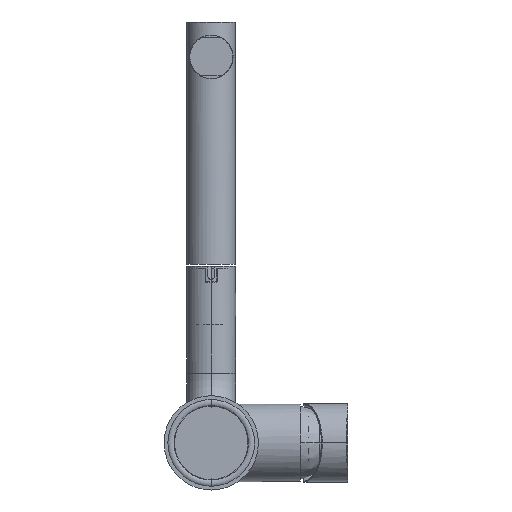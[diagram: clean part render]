
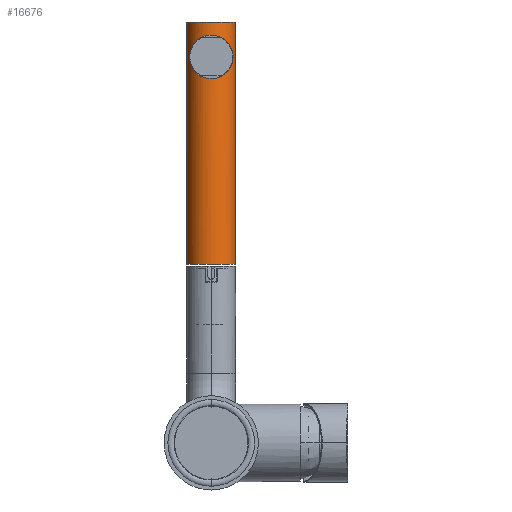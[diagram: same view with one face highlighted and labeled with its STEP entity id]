
A CAD part, front view. The second image highlights one B-rep face of the part: STEP entity #16676.
In plain terms, the highlighted cylindrical face has radius 14 mm (diameter 28 mm), a partial arc.
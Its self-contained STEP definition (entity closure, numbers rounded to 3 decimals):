
#16376=CARTESIAN_POINT('',(0.,297.4,
208.95));
#16377=CARTESIAN_POINT('',(-0.334,297.4,
208.95));
#16378=CARTESIAN_POINT('',(-1.006,297.424,
208.977));
#16379=CARTESIAN_POINT('',(-2.026,297.535,
209.101));
#16380=CARTESIAN_POINT('',(-3.04,297.721,
209.31));
#16381=CARTESIAN_POINT('',(-4.052,297.985,
209.609));
#16382=CARTESIAN_POINT('',(-5.063,298.333,
210.004));
#16383=CARTESIAN_POINT('',(-6.064,298.765,
210.5));
#16384=CARTESIAN_POINT('',(-7.059,299.292,
211.111));
#16385=CARTESIAN_POINT('',(-8.024,299.908,
211.839));
#16386=CARTESIAN_POINT('',(-8.95,300.613,
212.692));
#16387=CARTESIAN_POINT('',(-9.822,301.401,
213.679));
#16388=CARTESIAN_POINT('',(-10.598,302.232,
214.779));
#16389=CARTESIAN_POINT('',(-11.195,302.978,
215.848));
#16390=CARTESIAN_POINT('',(-11.647,303.621,
216.87));
#16391=CARTESIAN_POINT('',(-11.978,304.146,
217.832));
#16392=CARTESIAN_POINT('',(-12.211,304.548,
218.728));
#16393=CARTESIAN_POINT('',(-12.368,304.839,
219.577));
#16394=CARTESIAN_POINT('',(-12.462,305.019,
220.373));
#16395=CARTESIAN_POINT('',(-12.502,305.099,
221.113));
#16396=CARTESIAN_POINT('',(-12.502,305.099,
221.789));
#16397=CARTESIAN_POINT('',(-12.462,305.019,
222.527));
#16398=CARTESIAN_POINT('',(-12.368,304.839,
223.321));
#16399=CARTESIAN_POINT('',(-12.211,304.549,
224.17));
#16400=CARTESIAN_POINT('',(-11.978,304.146,
225.067));
#16401=CARTESIAN_POINT('',(-11.647,303.622,
226.029));
#16402=CARTESIAN_POINT('',(-11.195,302.978,
227.051));
#16403=CARTESIAN_POINT('',(-10.598,302.232,
228.121));
#16404=CARTESIAN_POINT('',(-9.822,301.4,
229.221));
#16405=CARTESIAN_POINT('',(-8.95,300.613,
230.208));
#16406=CARTESIAN_POINT('',(-8.024,299.908,
231.061));
#16407=CARTESIAN_POINT('',(-7.058,299.292,
231.789));
#16408=CARTESIAN_POINT('',(-6.064,298.765,
232.4));
#16409=CARTESIAN_POINT('',(-5.063,298.333,
232.896));
#16410=CARTESIAN_POINT('',(-4.052,297.985,
233.291));
#16411=CARTESIAN_POINT('',(-3.04,297.721,
233.59));
#16412=CARTESIAN_POINT('',(-2.026,297.535,
233.799));
#16413=CARTESIAN_POINT('',(-1.006,297.424,
233.923));
#16414=CARTESIAN_POINT('',(-0.334,297.4,
233.95));
#16415=CARTESIAN_POINT('',(0.,297.4,
233.95));
#16444=CARTESIAN_POINT('',(0.,311.4,
241.45));
#16445=DIRECTION('',(0.,0.,1.));
#16446=DIRECTION('',(-1.,0.,0.));
#16447=AXIS2_PLACEMENT_3D('',#16444,#16445,#16446);
#16454=DIRECTION('',(0.,0.,1.));
#16455=VECTOR('',#16454,138.9);
#16456=CARTESIAN_POINT('',(-14.,311.4,102.55));
#16457=LINE('',#16456,#16455);
#16458=DIRECTION('',(0.,0.,1.));
#16459=VECTOR('',#16458,138.9);
#16460=CARTESIAN_POINT('',(14.,311.4,102.55));
#16461=LINE('',#16460,#16459);
#16467=CARTESIAN_POINT('',(0.,311.4,102.55));
#16468=DIRECTION('',(0.,0.,-1.));
#16469=DIRECTION('',(1.,0.,0.));
#16470=AXIS2_PLACEMENT_3D('',#16467,#16468,#16469);
#16472=CARTESIAN_POINT('',(0.,297.4,
233.95));
#16473=CARTESIAN_POINT('',(0.334,297.4,
233.95));
#16474=CARTESIAN_POINT('',(1.006,297.424,233.923));
#16475=CARTESIAN_POINT('',(2.025,297.534,233.799));
#16476=CARTESIAN_POINT('',(3.038,297.721,233.59));
#16477=CARTESIAN_POINT('',(4.05,297.985,233.292));
#16478=CARTESIAN_POINT('',(5.062,298.332,232.897));
#16479=CARTESIAN_POINT('',(6.062,298.764,232.401));
#16480=CARTESIAN_POINT('',(7.056,299.29,231.791));
#16481=CARTESIAN_POINT('',(8.022,299.907,231.063));
#16482=CARTESIAN_POINT('',(8.948,300.611,230.21));
#16483=CARTESIAN_POINT('',(9.819,301.398,229.224));
#16484=CARTESIAN_POINT('',(10.597,302.231,228.122));
#16485=CARTESIAN_POINT('',(11.195,302.978,227.052));
#16486=CARTESIAN_POINT('',(11.647,303.622,226.029));
#16487=CARTESIAN_POINT('',(11.978,304.146,225.067));
#16488=CARTESIAN_POINT('',(12.211,304.549,224.171));
#16489=CARTESIAN_POINT('',(12.368,304.839,223.323));
#16490=CARTESIAN_POINT('',(12.461,305.019,222.529));
#16491=CARTESIAN_POINT('',(12.502,305.099,221.791));
#16492=CARTESIAN_POINT('',(12.502,305.099,221.116));
#16493=CARTESIAN_POINT('',(12.462,305.02,220.376));
#16494=CARTESIAN_POINT('',(12.369,304.84,219.58));
#16495=CARTESIAN_POINT('',(12.212,304.549,218.731));
#16496=CARTESIAN_POINT('',(11.979,304.147,217.834));
#16497=CARTESIAN_POINT('',(11.648,303.622,216.872));
#16498=CARTESIAN_POINT('',(11.195,302.979,215.849));
#16499=CARTESIAN_POINT('',(10.597,302.231,214.778));
#16500=CARTESIAN_POINT('',(9.819,301.398,213.676));
#16501=CARTESIAN_POINT('',(8.947,300.611,212.69));
#16502=CARTESIAN_POINT('',(8.022,299.907,211.837));
#16503=CARTESIAN_POINT('',(7.056,299.29,211.109));
#16504=CARTESIAN_POINT('',(6.062,298.764,210.499));
#16505=CARTESIAN_POINT('',(5.061,298.332,210.003));
#16506=CARTESIAN_POINT('',(4.05,297.985,209.608));
#16507=CARTESIAN_POINT('',(3.038,297.721,209.31));
#16508=CARTESIAN_POINT('',(2.025,297.534,209.101));
#16509=CARTESIAN_POINT('',(1.006,297.424,208.977));
#16510=CARTESIAN_POINT('',(0.334,297.4,
208.95));
#16511=CARTESIAN_POINT('',(0.,297.4,
208.95));
#16594=CARTESIAN_POINT('',(14.,311.4,102.55));
#16595=CARTESIAN_POINT('',(14.,311.4,241.45));
#16596=VERTEX_POINT('',#16594);
#16597=VERTEX_POINT('',#16595);
#16598=CARTESIAN_POINT('',(-14.,311.4,102.55));
#16599=CARTESIAN_POINT('',(-14.,311.4,
241.45));
#16600=VERTEX_POINT('',#16598);
#16601=VERTEX_POINT('',#16599);
#16630=VERTEX_POINT('',#16472);
#16631=VERTEX_POINT('',#16511);
#16656=CARTESIAN_POINT('',(0.,311.4,102.55));
#16657=DIRECTION('',(0.,0.,1.));
#16658=DIRECTION('',(-1.,0.,0.));
#16659=AXIS2_PLACEMENT_3D('',#16656,#16657,#16658);
#16660=CYLINDRICAL_SURFACE('',#16659,14.);
#16662=ORIENTED_EDGE('',*,*,#16661,.T.);
#16664=ORIENTED_EDGE('',*,*,#16663,.F.);
#16666=ORIENTED_EDGE('',*,*,#16665,.T.);
#16668=ORIENTED_EDGE('',*,*,#16667,.T.);
#16669=EDGE_LOOP('',(#16662,#16664,#16666,#16668));
#16670=FACE_OUTER_BOUND('',#16669,.F.);
#16672=ORIENTED_EDGE('',*,*,#16671,.F.);
#16673=ORIENTED_EDGE('',*,*,#16637,.F.);
#16674=EDGE_LOOP('',(#16672,#16673));
#16675=FACE_BOUND('',#16674,.F.);
#16676=ADVANCED_FACE('',(#16670,#16675),#16660,.T.);
#16416=B_SPLINE_CURVE_WITH_KNOTS('',3,(#16376,#16377,#16378,#16379,#16380,
#16381,#16382,#16383,#16384,#16385,#16386,#16387,#16388,#16389,#16390,#16391,
#16392,#16393,#16394,#16395,#16396,#16397,#16398,#16399,#16400,#16401,#16402,
#16403,#16404,#16405,#16406,#16407,#16408,#16409,#16410,#16411,#16412,#16413,
#16414,#16415),.UNSPECIFIED.,.F.,.F.,(4,1,1,1,1,1,1,1,1,1,1,1,1,1,1,1,1,1,1,1,1,
1,1,1,1,1,1,1,1,1,1,1,1,1,1,1,1,4),(0.,0.027,0.054,
0.081,0.108,0.135,0.162,
0.189,0.216,0.243,0.27,
0.297,0.324,0.351,0.378,
0.405,0.432,0.459,0.486,
0.514,0.541,0.568,0.595,
0.622,0.649,0.676,0.703,
0.73,0.757,0.784,0.811,
0.838,0.865,0.892,0.919,
0.946,0.973,1.),.UNSPECIFIED.);
#16448=CIRCLE('',#16447,14.);
#16471=CIRCLE('',#16470,14.);
#16512=B_SPLINE_CURVE_WITH_KNOTS('',3,(#16472,#16473,#16474,#16475,#16476,
#16477,#16478,#16479,#16480,#16481,#16482,#16483,#16484,#16485,#16486,#16487,
#16488,#16489,#16490,#16491,#16492,#16493,#16494,#16495,#16496,#16497,#16498,
#16499,#16500,#16501,#16502,#16503,#16504,#16505,#16506,#16507,#16508,#16509,
#16510,#16511),.UNSPECIFIED.,.F.,.F.,(4,1,1,1,1,1,1,1,1,1,1,1,1,1,1,1,1,1,1,1,1,
1,1,1,1,1,1,1,1,1,1,1,1,1,1,1,1,4),(0.,0.027,0.054,
0.081,0.108,0.135,0.162,
0.189,0.216,0.243,0.27,
0.297,0.324,0.351,0.378,
0.405,0.432,0.459,0.486,
0.514,0.541,0.568,0.595,
0.622,0.649,0.676,0.703,
0.73,0.757,0.784,0.811,
0.838,0.865,0.892,0.919,
0.946,0.973,1.),.UNSPECIFIED.);
#16637=EDGE_CURVE('',#16631,#16630,#16416,.T.);
#16661=EDGE_CURVE('',#16601,#16597,#16448,.T.);
#16663=EDGE_CURVE('',#16596,#16597,#16461,.T.);
#16665=EDGE_CURVE('',#16596,#16600,#16471,.T.);
#16667=EDGE_CURVE('',#16600,#16601,#16457,.T.);
#16671=EDGE_CURVE('',#16630,#16631,#16512,.T.);
